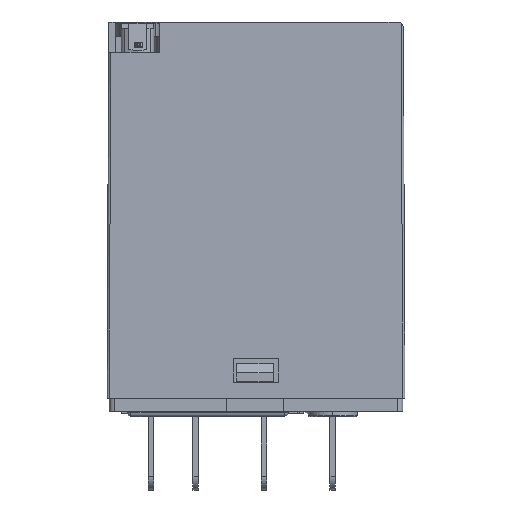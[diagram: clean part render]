
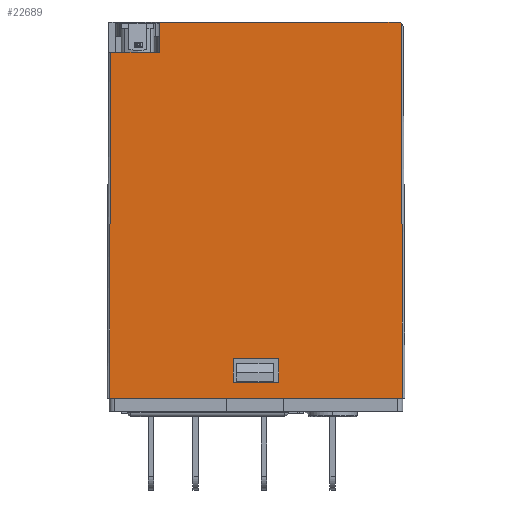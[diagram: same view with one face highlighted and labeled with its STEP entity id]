
A CAD part, left-side view. The second image highlights one B-rep face of the part: STEP entity #22689.
In plain terms, the highlighted planar face has unit normal (-1, 0, 0.004).
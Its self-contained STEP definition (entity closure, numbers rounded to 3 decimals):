
#1139 = FACE_OUTER_BOUND ( 'NONE', #35595, .T. ) ;
#1449 = VERTEX_POINT ( 'NONE', #30916 ) ;
#2023 = LINE ( 'NONE', #17793, #8719 ) ;
#2575 = DIRECTION ( 'NONE',  ( 0., -1., 0. ) ) ;
#2676 = LINE ( 'NONE', #31075, #32235 ) ;
#3193 = VECTOR ( 'NONE', #8349, 1000. ) ;
#4101 = LINE ( 'NONE', #28254, #3193 ) ;
#5802 = CARTESIAN_POINT ( 'NONE',  ( -20.214, -15.564, -0.365 ) ) ;
#5878 = CARTESIAN_POINT ( 'NONE',  ( -20.063, 6.826, 34.235 ) ) ;
#6227 = ORIENTED_EDGE ( 'NONE', *, *, #24545, .T. ) ;
#7295 = EDGE_CURVE ( 'NONE', #7610, #1449, #27778, .T. ) ;
#7610 = VERTEX_POINT ( 'NONE', #8047 ) ;
#7656 = EDGE_CURVE ( 'NONE', #23987, #12091, #2676, .T. ) ;
#8015 = CARTESIAN_POINT ( 'NONE',  ( -20.208, -15.764, 1.085 ) ) ;
#8047 = CARTESIAN_POINT ( 'NONE',  ( -20.208, 0.036, 1.085 ) ) ;
#8349 = DIRECTION ( 'NONE',  ( -0.004, 0., -1. ) ) ;
#8719 = VECTOR ( 'NONE', #20665, 1000. ) ;
#8798 = CARTESIAN_POINT ( 'NONE',  ( -20.076, 11.297, 31.435 ) ) ;
#9069 = ORIENTED_EDGE ( 'NONE', *, *, #31241, .T. ) ;
#9194 = CARTESIAN_POINT ( 'NONE',  ( -20.214, 0.036, -0.365 ) ) ;
#9905 = CARTESIAN_POINT ( 'NONE',  ( -20.198, -4.164, 3.285 ) ) ;
#9998 = VERTEX_POINT ( 'NONE', #8798 ) ;
#10200 = VERTEX_POINT ( 'NONE', #9905 ) ;
#10880 = DIRECTION ( 'NONE',  ( 0., 1., 0. ) ) ;
#11869 = EDGE_CURVE ( 'NONE', #14629, #7610, #20487, .T. ) ;
#12091 = VERTEX_POINT ( 'NONE', #35244 ) ;
#12978 = ORIENTED_EDGE ( 'NONE', *, *, #11869, .T. ) ;
#14196 = LINE ( 'NONE', #30270, #36074 ) ;
#14629 = VERTEX_POINT ( 'NONE', #25442 ) ;
#14797 = LINE ( 'NONE', #23672, #28193 ) ;
#15219 = CARTESIAN_POINT ( 'NONE',  ( -20.214, -15.764, -0.365 ) ) ;
#15325 = VECTOR ( 'NONE', #2575, 1000. ) ;
#15658 = EDGE_CURVE ( 'NONE', #23987, #32281, #22905, .T. ) ;
#15767 = EDGE_CURVE ( 'NONE', #19548, #32449, #19337, .T. ) ;
#16772 = CARTESIAN_POINT ( 'NONE',  ( -20.076, -15.764, 31.435 ) ) ;
#16843 = CARTESIAN_POINT ( 'NONE',  ( -20.063, -15.764, 34.235 ) ) ;
#17151 = ORIENTED_EDGE ( 'NONE', *, *, #36204, .T. ) ;
#17793 = CARTESIAN_POINT ( 'NONE',  ( -20.063, -15.27, 34.293 ) ) ;
#18119 = ORIENTED_EDGE ( 'NONE', *, *, #20534, .T. ) ;
#19337 = LINE ( 'NONE', #15219, #26935 ) ;
#19374 = VECTOR ( 'NONE', #21770, 1000. ) ;
#19548 = VERTEX_POINT ( 'NONE', #32324 ) ;
#20225 = ORIENTED_EDGE ( 'NONE', *, *, #29225, .T. ) ;
#20487 = LINE ( 'NONE', #8015, #32997 ) ;
#20534 = EDGE_CURVE ( 'NONE', #1449, #10200, #14196, .T. ) ;
#20614 = VECTOR ( 'NONE', #25533, 1000. ) ;
#20665 = DIRECTION ( 'NONE',  ( 0.003, 0.602, 0.798 ) ) ;
#20952 = DIRECTION ( 'NONE',  ( 0., -1., 0. ) ) ;
#21770 = DIRECTION ( 'NONE',  ( 0., 1., 0. ) ) ;
#22284 = CARTESIAN_POINT ( 'NONE',  ( -20.063, -15.313, 34.235 ) ) ;
#22378 = LINE ( 'NONE', #22669, #20614 ) ;
#22669 = CARTESIAN_POINT ( 'NONE',  ( -20.214, 11.435, -0.246 ) ) ;
#22689 = ADVANCED_FACE ( 'NONE', ( #1139, #31571 ), #33482, .T. ) ;
#22905 = LINE ( 'NONE', #16843, #15325 ) ;
#23461 = ORIENTED_EDGE ( 'NONE', *, *, #7656, .T. ) ;
#23672 = CARTESIAN_POINT ( 'NONE',  ( -20.214, -15.564, -0.366 ) ) ;
#23987 = VERTEX_POINT ( 'NONE', #5878 ) ;
#24545 = EDGE_CURVE ( 'NONE', #9998, #19548, #22378, .T. ) ;
#24846 = DIRECTION ( 'NONE',  ( -1., 0., 0.004 ) ) ;
#25442 = CARTESIAN_POINT ( 'NONE',  ( -20.208, -4.164, 1.085 ) ) ;
#25533 = DIRECTION ( 'NONE',  ( -0.004, 0.004, -1. ) ) ;
#25628 = VERTEX_POINT ( 'NONE', #25939 ) ;
#25939 = CARTESIAN_POINT ( 'NONE',  ( -20.064, -15.414, 34.102 ) ) ;
#26067 = LINE ( 'NONE', #16772, #19374 ) ;
#26578 = DIRECTION ( 'NONE',  ( 0.004, 0.004, 1. ) ) ;
#26935 = VECTOR ( 'NONE', #20952, 1000. ) ;
#27778 = LINE ( 'NONE', #9194, #33556 ) ;
#28185 = DIRECTION ( 'NONE',  ( -0.004, 0., -1. ) ) ;
#28193 = VECTOR ( 'NONE', #26578, 1000. ) ;
#28254 = CARTESIAN_POINT ( 'NONE',  ( -20.214, -4.164, -0.365 ) ) ;
#28840 = EDGE_LOOP ( 'NONE', ( #12978, #36608, #18119, #17151 ) ) ;
#28967 = AXIS2_PLACEMENT_3D ( 'NONE', #30628, #24846, #36347 ) ;
#29225 = EDGE_CURVE ( 'NONE', #25628, #32281, #2023, .T. ) ;
#30270 = CARTESIAN_POINT ( 'NONE',  ( -20.198, -15.764, 3.285 ) ) ;
#30628 = CARTESIAN_POINT ( 'NONE',  ( -20.214, -15.764, -0.365 ) ) ;
#30916 = CARTESIAN_POINT ( 'NONE',  ( -20.198, 0.036, 3.285 ) ) ;
#31075 = CARTESIAN_POINT ( 'NONE',  ( -20.076, 6.826, 31.434 ) ) ;
#31241 = EDGE_CURVE ( 'NONE', #12091, #9998, #26067, .T. ) ;
#31571 = FACE_BOUND ( 'NONE', #28840, .T. ) ;
#31928 = ORIENTED_EDGE ( 'NONE', *, *, #15658, .F. ) ;
#32235 = VECTOR ( 'NONE', #28185, 1000. ) ;
#32281 = VERTEX_POINT ( 'NONE', #22284 ) ;
#32324 = CARTESIAN_POINT ( 'NONE',  ( -20.214, 11.436, -0.365 ) ) ;
#32449 = VERTEX_POINT ( 'NONE', #5802 ) ;
#32759 = ORIENTED_EDGE ( 'NONE', *, *, #36932, .T. ) ;
#32997 = VECTOR ( 'NONE', #10880, 1000. ) ;
#33128 = DIRECTION ( 'NONE',  ( 0., -1., 0. ) ) ;
#33482 = PLANE ( 'NONE',  #28967 ) ;
#33556 = VECTOR ( 'NONE', #34954, 1000. ) ;
#34954 = DIRECTION ( 'NONE',  ( 0.004, 0., 1. ) ) ;
#35244 = CARTESIAN_POINT ( 'NONE',  ( -20.076, 6.826, 31.435 ) ) ;
#35595 = EDGE_LOOP ( 'NONE', ( #36114, #32759, #20225, #31928, #23461, #9069, #6227 ) ) ;
#36074 = VECTOR ( 'NONE', #33128, 1000. ) ;
#36114 = ORIENTED_EDGE ( 'NONE', *, *, #15767, .T. ) ;
#36204 = EDGE_CURVE ( 'NONE', #10200, #14629, #4101, .T. ) ;
#36347 = DIRECTION ( 'NONE',  ( 0., -1., 0. ) ) ;
#36608 = ORIENTED_EDGE ( 'NONE', *, *, #7295, .T. ) ;
#36932 = EDGE_CURVE ( 'NONE', #32449, #25628, #14797, .T. ) ;
